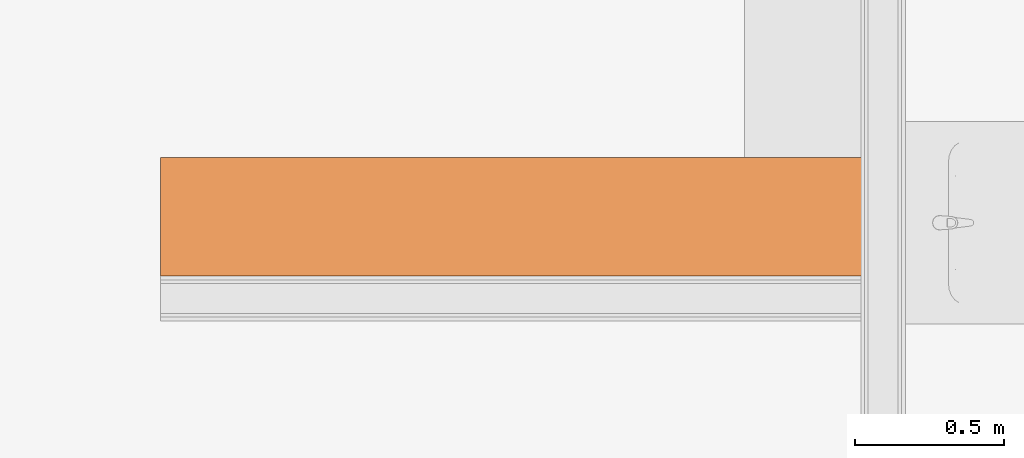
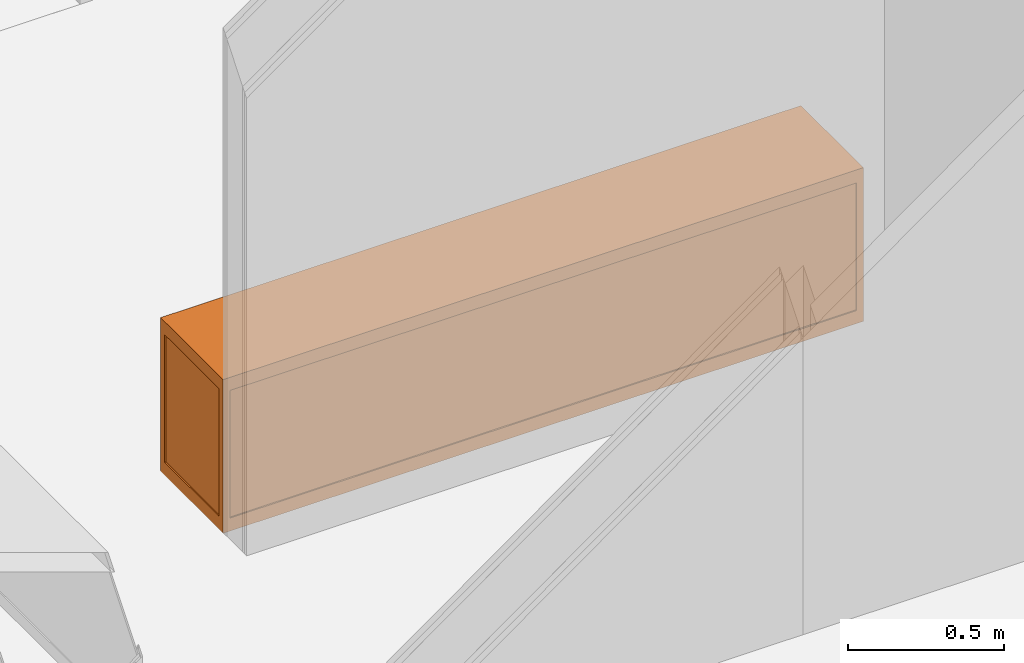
# One storey, part 108 of 109: 1 proxy.
"""IFC2X3 building model written with IfcOpenShell, lengths in millimetres."""

from ifc_helpers import new_model, entity, si_unit, converted_unit, derived_unit, money_unit, direction, frame, origin_with_axes, place, context, subcontext, project, spatial, faceted_brep, type_object, element, save


model = new_model("IFC2X3")

# Units and contexts
model_context = context("Model", 3, precision=0.01, world=origin_with_axes(), true_north=direction((0.0, 1.0)))
body_context = subcontext(model_context, "Body", "Model", "MODEL_VIEW")
ifc_project = project(units=[si_unit("LENGTHUNIT", "METRE", prefix="MILLI"), si_unit("AREAUNIT", "SQUARE_METRE"), si_unit("VOLUMEUNIT", "CUBIC_METRE"), converted_unit("PLANEANGLEUNIT", "DEGREE", entity("IfcPlaneAngleMeasure", 0.0174532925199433), si_unit("PLANEANGLEUNIT", "RADIAN"), dimensions=[0, 0, 0, 0, 0, 0, 0]), money_unit("EUR"), converted_unit("TIMEUNIT", "Year", entity("IfcTimeMeasure", 31557600.0), si_unit("TIMEUNIT", "SECOND"), dimensions=[0, 0, 1, 0, 0, 0, 0]), si_unit("MASSUNIT", "GRAM", prefix="KILO"), si_unit("THERMODYNAMICTEMPERATUREUNIT", "DEGREE_CELSIUS"), si_unit("LUMINOUSINTENSITYUNIT", "LUMEN"), si_unit("ENERGYUNIT", "JOULE", prefix="MEGA"), derived_unit("THERMALCONDUCTANCEUNIT", [(si_unit("POWERUNIT", "WATT"), 1), (si_unit("LENGTHUNIT", "METRE"), -1), (si_unit("THERMODYNAMICTEMPERATUREUNIT", "KELVIN"), -1)]), derived_unit("SPECIFICHEATCAPACITYUNIT", [(si_unit("ENERGYUNIT", "JOULE"), 1), (si_unit("MASSUNIT", "GRAM", prefix="KILO"), -1), (si_unit("THERMODYNAMICTEMPERATUREUNIT", "KELVIN"), -1)]), derived_unit("MASSDENSITYUNIT", [(si_unit("MASSUNIT", "GRAM", prefix="KILO"), 1), (si_unit("VOLUMEUNIT", "CUBIC_METRE"), -1)])], contexts=[model_context])

# Site, building, storey
site_placement = place(None, origin_with_axes())
site = spatial("IfcSite", under=ifc_project, at=site_placement, Name="<site naam>", CompositionType="ELEMENT")
building_placement = place(site_placement, origin_with_axes())
building = spatial("IfcBuilding", under=site, at=building_placement, Name="<Naam gebouw>", CompositionType="ELEMENT")
storey_placement = place(building_placement, origin_with_axes())
storey = spatial("IfcBuildingStorey", under=building, at=storey_placement, Name="00 Begane grond", CompositionType="ELEMENT", Elevation=0.0)

# Proxy
building_element_proxy_type = type_object("IfcBuildingElementProxyType", Name="Boekenkast 04 27 KM", PredefinedType="USERDEFINED")
proxy_placement = place(storey_placement, frame((53334.99999874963, 13544.99999810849, 0.0), z_axis=(0.0, 0.0, 1.0), x_axis=(-1.0, 0.0, 0.0)))
element("IfcBuildingElementProxy", 1, at=proxy_placement, inside=storey, type_object=building_element_proxy_type, Name="72_Brandslanghaspelkast_Lege", ObjectType="Massing", context=body_context, shape_type="Brep", body=[
    faceted_brep([(0.0, 0.0, 0.0), (0.0, 0.0, 600.0), (-25.4, 0.0, 600.0), (-25.4, 0.0, 0.0), (0.0, 25.4, 0.0), (0.0, 25.4, 600.0), (-5.0, 25.4, 600.0), (-5.0, 5.0, 600.0), (-25.4, 5.0, 600.0), (-25.4, 5.0, 0.0), (-5.0, 5.0, 0.0), (-5.0, 25.4, 0.0)], [[[0, 1, 2, 3]], [[4, 5, 1, 0]], [[1, 5, 6, 7, 8, 2]], [[3, 2, 8, 9]], [[0, 3, 9, 10, 11, 4]], [[11, 6, 5, 4]], [[10, 7, 6, 11]], [[9, 8, 7, 10]]]),
    faceted_brep([(-2364.999907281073, 25.4, 0.0), (-2364.999907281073, 25.4, 600.0), (-2359.999907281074, 25.4, 600.0), (-2359.999907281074, 25.4, 0.0), (-2364.999907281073, 0.0, 0.0), (-2364.999907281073, 0.0, 600.0), (-2339.599907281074, 0.0, 600.0), (-2339.599907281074, 5.0, 600.0), (-2359.999907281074, 5.0, 600.0), (-2359.999907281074, 5.0, 0.0), (-2339.599907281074, 5.0, 0.0), (-2339.599907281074, 0.0, 0.0)], [[[0, 1, 2, 3]], [[4, 5, 1, 0]], [[1, 5, 6, 7, 8, 2]], [[3, 2, 8, 9]], [[0, 3, 9, 10, 11, 4]], [[11, 6, 5, 4]], [[10, 7, 6, 11]], [[9, 8, 7, 10]]]),
    faceted_brep([(0.0, 374.5999821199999, 0.0), (0.0, 374.5999821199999, 600.0), (-5.0, 374.5999821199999, 600.0), (-5.0, 374.5999821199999, 0.0), (0.0, 399.9999821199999, 0.0), (0.0, 399.9999821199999, 600.0), (-25.4, 399.9999821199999, 600.0), (-25.4, 394.9999821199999, 600.0), (-5.0, 394.9999821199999, 600.0), (-5.0, 394.9999821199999, 0.0), (-25.4, 394.9999821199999, 0.0), (-25.4, 399.9999821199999, 0.0)], [[[0, 1, 2, 3]], [[4, 5, 1, 0]], [[1, 5, 6, 7, 8, 2]], [[3, 2, 8, 9]], [[0, 3, 9, 10, 11, 4]], [[11, 6, 5, 4]], [[10, 7, 6, 11]], [[9, 8, 7, 10]]]),
    faceted_brep([(-2364.999907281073, 399.9999821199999, 0.0), (-2364.999907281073, 399.9999821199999, 600.0), (-2339.599907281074, 399.9999821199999, 600.0), (-2339.599907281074, 399.9999821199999, 0.0), (-2364.999907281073, 374.5999821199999, 0.0), (-2364.999907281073, 374.5999821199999, 600.0), (-2359.999907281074, 374.5999821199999, 600.0), (-2359.999907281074, 394.9999821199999, 600.0), (-2339.599907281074, 394.9999821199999, 600.0), (-2339.599907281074, 394.9999821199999, 0.0), (-2359.999907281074, 394.9999821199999, 0.0), (-2359.999907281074, 374.5999821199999, 0.0)], [[[0, 1, 2, 3]], [[4, 5, 1, 0]], [[1, 5, 6, 7, 8, 2]], [[3, 2, 8, 9]], [[0, 3, 9, 10, 11, 4]], [[11, 6, 5, 4]], [[10, 7, 6, 11]], [[9, 8, 7, 10]]]),
    faceted_brep([(-5.0, 394.9999821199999, 0.0), (-5.0, 389.9999821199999, 0.0), (-2359.999907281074, 389.9999821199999, 0.0), (-2359.999907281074, 394.9999821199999, 0.0), (-5.0, 394.99998212, 549.2), (-5.0, 389.99998212, 549.2), (-2359.999907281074, 389.99998212, 549.2), (-2359.999907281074, 394.99998212, 549.2)], [[[0, 1, 2, 3]], [[4, 5, 1, 0]], [[1, 5, 6, 2]], [[3, 2, 6, 7]], [[0, 3, 7, 4]], [[7, 6, 5, 4]]]),
    faceted_brep([(-10.0, 389.9999821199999, 0.0), (-5.0, 389.9999821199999, 0.0), (-5.000000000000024, 5.000000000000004, 0.0), (-10.00000000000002, 5.000000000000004, 0.0), (-10.0, 389.99998212, 549.2), (-5.0, 389.99998212, 549.2), (-5.000000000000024, 5.00000000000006, 549.2), (-10.00000000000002, 5.00000000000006, 549.2)], [[[0, 1, 2, 3]], [[4, 5, 1, 0]], [[1, 5, 6, 2]], [[3, 2, 6, 7]], [[0, 3, 7, 4]], [[7, 6, 5, 4]]]),
    faceted_brep([(-2359.999907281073, 389.9999821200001, 0.0), (-2354.999907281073, 389.9999821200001, 0.0), (-2354.999907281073, 5.000000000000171, 0.0), (-2359.999907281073, 5.000000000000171, 0.0), (-2359.999907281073, 389.9999821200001, 549.2), (-2354.999907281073, 389.9999821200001, 549.2), (-2354.999907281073, 5.000000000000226, 549.2), (-2359.999907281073, 5.000000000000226, 549.2)], [[[0, 1, 2, 3]], [[4, 5, 1, 0]], [[1, 5, 6, 2]], [[3, 2, 6, 7]], [[0, 3, 7, 4]], [[7, 6, 5, 4]]]),
    faceted_brep([(-10.0, 10.0, 50.8), (-10.0, 10.0, 549.1999999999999), (-1182.499953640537, 10.0, 549.1999999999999), (-1182.499953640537, 10.0, 50.8), (-10.0, 15.0, 50.8), (-10.0, 15.0, 549.1999999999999), (-1182.499953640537, 15.0, 549.1999999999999), (-1182.499953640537, 15.0, 50.8)], [[[0, 1, 2, 3]], [[4, 5, 1, 0]], [[1, 5, 6, 2]], [[3, 2, 6, 7]], [[0, 3, 7, 4]], [[7, 6, 5, 4]]]),
    faceted_brep([(-1182.499953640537, 5.0, 50.8), (-1182.499953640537, 5.0, 549.1999999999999), (-2354.999907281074, 5.0, 549.1999999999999), (-2354.999907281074, 5.0, 50.8), (-1182.499953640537, 10.0, 50.8), (-1182.499953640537, 10.0, 549.1999999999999), (-2354.999907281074, 10.0, 549.1999999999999), (-2354.999907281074, 10.0, 50.8)], [[[0, 1, 2, 3]], [[4, 5, 1, 0]], [[1, 5, 6, 2]], [[3, 2, 6, 7]], [[0, 3, 7, 4]], [[7, 6, 5, 4]]]),
    faceted_brep([(-80.17211629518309, 10.00000000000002, 297.395277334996), (-80.4, 10.00000000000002, 300.0), (-80.17211629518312, 10.00000000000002, 302.6047226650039), (-79.49538931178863, 10.00000000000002, 305.130302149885), (-78.39038105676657, 10.00000000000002, 307.5), (-76.89066664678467, 10.00000000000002, 309.641814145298), (-75.04181414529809, 10.00000000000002, 311.4906666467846), (-72.89999999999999, 10.00000000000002, 312.9903810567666), (-70.53030214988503, 10.00000000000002, 314.0953893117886), (-68.00472266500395, 10.00000000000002, 314.7721162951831), (-65.4, 10.00000000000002, 315.0), (-62.79527733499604, 10.00000000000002, 314.7721162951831), (-60.26969785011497, 10.00000000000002, 314.0953893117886), (-57.90000000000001, 10.00000000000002, 312.9903810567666), (-55.75818585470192, 10.00000000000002, 311.4906666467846), (-53.90933335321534, 10.00000000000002, 309.641814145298), (-52.40961894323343, 10.00000000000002, 307.5), (-51.30461068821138, 10.00000000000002, 305.130302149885), (-50.62788370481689, 10.00000000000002, 302.6047226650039), (-50.40000000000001, 10.00000000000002, 300.0), (-50.62788370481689, 10.00000000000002, 297.395277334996), (-51.30461068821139, 10.00000000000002, 294.869697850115), (-52.40961894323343, 10.00000000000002, 292.5), (-53.90933335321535, 10.00000000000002, 290.3581858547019), (-55.75818585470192, 10.00000000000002, 288.5093333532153), (-57.90000000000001, 10.00000000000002, 287.0096189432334), (-60.26969785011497, 10.00000000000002, 285.9046106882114), (-62.79527733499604, 10.00000000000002, 285.2278837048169), (-65.4, 10.00000000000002, 285.0000000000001), (-68.00472266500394, 10.00000000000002, 285.2278837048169), (-70.53030214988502, 10.00000000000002, 285.9046106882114), (-72.89999999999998, 10.00000000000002, 287.0096189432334), (-75.04181414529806, 10.00000000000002, 288.5093333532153), (-76.89066664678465, 10.00000000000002, 290.3581858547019), (-78.39038105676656, 10.00000000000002, 292.5), (-79.4953893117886, 10.00000000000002, 294.869697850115), (-80.17211629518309, 8.00000000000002, 297.395277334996), (-80.4, 8.00000000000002, 300.0), (-80.17211629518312, 8.00000000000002, 302.6047226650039), (-79.49538931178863, 8.00000000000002, 305.130302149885), (-78.39038105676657, 8.00000000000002, 307.5), (-76.89066664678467, 8.00000000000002, 309.641814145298), (-75.04181414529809, 8.000000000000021, 311.4906666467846), (-72.89999999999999, 8.000000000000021, 312.9903810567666), (-70.53030214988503, 8.000000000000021, 314.0953893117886), (-68.00472266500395, 8.000000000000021, 314.7721162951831), (-65.4, 8.000000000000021, 315.0), (-62.79527733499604, 8.000000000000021, 314.7721162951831), (-60.26969785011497, 8.000000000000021, 314.0953893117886), (-57.90000000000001, 8.000000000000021, 312.9903810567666), (-55.75818585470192, 8.000000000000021, 311.4906666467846), (-53.90933335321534, 8.00000000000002, 309.641814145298), (-52.40961894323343, 8.00000000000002, 307.5), (-51.30461068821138, 8.00000000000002, 305.130302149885), (-50.62788370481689, 8.00000000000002, 302.6047226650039), (-50.40000000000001, 8.00000000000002, 300.0), (-50.62788370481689, 8.00000000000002, 297.395277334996), (-51.30461068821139, 8.00000000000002, 294.869697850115), (-52.40961894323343, 8.00000000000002, 292.5), (-53.90933335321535, 8.00000000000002, 290.3581858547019), (-55.75818585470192, 8.000000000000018, 288.5093333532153), (-57.90000000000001, 8.000000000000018, 287.0096189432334), (-60.26969785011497, 8.000000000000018, 285.9046106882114), (-62.79527733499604, 8.000000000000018, 285.2278837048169), (-65.4, 8.000000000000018, 285.0000000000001), (-68.00472266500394, 8.000000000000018, 285.2278837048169), (-70.53030214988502, 8.000000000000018, 285.9046106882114), (-72.89999999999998, 8.000000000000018, 287.0096189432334), (-75.04181414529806, 8.000000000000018, 288.5093333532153), (-76.89066664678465, 8.00000000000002, 290.3581858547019), (-78.39038105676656, 8.00000000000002, 292.5), (-79.4953893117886, 8.00000000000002, 294.869697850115)], [[[0, 1, 2, 3, 4, 5, 6, 7, 8, 9, 10, 11, 12, 13, 14, 15, 16, 17, 18, 19, 20, 21, 22, 23, 24, 25, 26, 27, 28, 29, 30, 31, 32, 33, 34, 35]], [[0, 36, 37, 1]], [[1, 37, 38, 2]], [[2, 38, 39, 3]], [[3, 39, 40, 4]], [[4, 40, 41, 5]], [[5, 41, 42, 6]], [[6, 42, 43, 7]], [[7, 43, 44, 8]], [[8, 44, 45, 9]], [[9, 45, 46, 10]], [[10, 46, 47, 11]], [[11, 47, 48, 12]], [[12, 48, 49, 13]], [[13, 49, 50, 14]], [[14, 50, 51, 15]], [[15, 51, 52, 16]], [[16, 52, 53, 17]], [[17, 53, 54, 18]], [[18, 54, 55, 19]], [[19, 55, 56, 20]], [[20, 56, 57, 21]], [[21, 57, 58, 22]], [[22, 58, 59, 23]], [[23, 59, 60, 24]], [[24, 60, 61, 25]], [[25, 61, 62, 26]], [[26, 62, 63, 27]], [[27, 63, 64, 28]], [[28, 64, 65, 29]], [[29, 65, 66, 30]], [[30, 66, 67, 31]], [[31, 67, 68, 32]], [[32, 68, 69, 33]], [[33, 69, 70, 34]], [[34, 70, 71, 35]], [[35, 71, 36, 0]], [[36, 71, 70, 69, 68, 67, 66, 65, 64, 63, 62, 61, 60, 59, 58, 57, 56, 55, 54, 53, 52, 51, 50, 49, 48, 47, 46, 45, 44, 43, 42, 41, 40, 39, 38, 37]]]),
    faceted_brep([(-2314.372023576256, 5.00000000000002, 297.395277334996), (-2314.599907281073, 5.00000000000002, 300.0), (-2314.372023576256, 5.00000000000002, 302.6047226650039), (-2313.695296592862, 5.00000000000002, 305.130302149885), (-2312.590288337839, 5.00000000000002, 307.5), (-2311.090573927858, 5.00000000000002, 309.641814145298), (-2309.241721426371, 5.00000000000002, 311.4906666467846), (-2307.099907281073, 5.00000000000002, 312.9903810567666), (-2304.730209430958, 5.00000000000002, 314.0953893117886), (-2302.204629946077, 5.00000000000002, 314.7721162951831), (-2299.599907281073, 5.00000000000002, 315.0), (-2296.995184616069, 5.00000000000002, 314.7721162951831), (-2294.469605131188, 5.00000000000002, 314.0953893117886), (-2292.099907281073, 5.00000000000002, 312.9903810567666), (-2289.958093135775, 5.00000000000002, 311.4906666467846), (-2288.109240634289, 5.00000000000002, 309.641814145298), (-2286.609526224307, 5.00000000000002, 307.5), (-2285.504517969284, 5.00000000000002, 305.130302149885), (-2284.82779098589, 5.00000000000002, 302.6047226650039), (-2284.599907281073, 5.00000000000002, 300.0), (-2284.82779098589, 5.00000000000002, 297.395277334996), (-2285.504517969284, 5.00000000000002, 294.869697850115), (-2286.609526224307, 5.000000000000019, 292.5), (-2288.109240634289, 5.000000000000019, 290.3581858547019), (-2289.958093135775, 5.000000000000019, 288.5093333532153), (-2292.099907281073, 5.000000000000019, 287.0096189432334), (-2294.469605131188, 5.000000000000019, 285.9046106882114), (-2296.995184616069, 5.000000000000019, 285.2278837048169), (-2299.599907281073, 5.000000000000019, 285.0000000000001), (-2302.204629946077, 5.000000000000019, 285.2278837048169), (-2304.730209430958, 5.000000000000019, 285.9046106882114), (-2307.099907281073, 5.000000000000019, 287.0096189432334), (-2309.241721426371, 5.000000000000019, 288.5093333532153), (-2311.090573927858, 5.000000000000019, 290.3581858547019), (-2312.590288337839, 5.000000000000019, 292.5), (-2313.695296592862, 5.00000000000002, 294.869697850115), (-2314.372023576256, 3.000000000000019, 297.395277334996), (-2314.599907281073, 3.000000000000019, 300.0), (-2314.372023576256, 3.000000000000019, 302.6047226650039), (-2313.695296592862, 3.00000000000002, 305.130302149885), (-2312.590288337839, 3.00000000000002, 307.5), (-2311.090573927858, 3.00000000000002, 309.641814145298), (-2309.241721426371, 3.00000000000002, 311.4906666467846), (-2307.099907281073, 3.00000000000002, 312.9903810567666), (-2304.730209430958, 3.00000000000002, 314.0953893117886), (-2302.204629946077, 3.00000000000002, 314.7721162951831), (-2299.599907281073, 3.00000000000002, 315.0), (-2296.995184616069, 3.00000000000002, 314.7721162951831), (-2294.469605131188, 3.00000000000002, 314.0953893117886), (-2292.099907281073, 3.00000000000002, 312.9903810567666), (-2289.958093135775, 3.00000000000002, 311.4906666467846), (-2288.109240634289, 3.00000000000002, 309.641814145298), (-2286.609526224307, 3.00000000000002, 307.5), (-2285.504517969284, 3.00000000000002, 305.130302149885), (-2284.82779098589, 3.000000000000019, 302.6047226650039), (-2284.599907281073, 3.000000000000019, 300.0), (-2284.82779098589, 3.000000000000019, 297.395277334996), (-2285.504517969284, 3.000000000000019, 294.869697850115), (-2286.609526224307, 3.000000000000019, 292.5), (-2288.109240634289, 3.000000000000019, 290.3581858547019), (-2289.958093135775, 3.000000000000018, 288.5093333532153), (-2292.099907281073, 3.000000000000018, 287.0096189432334), (-2294.469605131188, 3.000000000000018, 285.9046106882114), (-2296.995184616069, 3.000000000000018, 285.2278837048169), (-2299.599907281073, 3.000000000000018, 285.0000000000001), (-2302.204629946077, 3.000000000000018, 285.2278837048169), (-2304.730209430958, 3.000000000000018, 285.9046106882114), (-2307.099907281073, 3.000000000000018, 287.0096189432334), (-2309.241721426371, 3.000000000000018, 288.5093333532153), (-2311.090573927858, 3.000000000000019, 290.3581858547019), (-2312.590288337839, 3.000000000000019, 292.5), (-2313.695296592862, 3.000000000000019, 294.869697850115)], [[[0, 1, 2, 3, 4, 5, 6, 7, 8, 9, 10, 11, 12, 13, 14, 15, 16, 17, 18, 19, 20, 21, 22, 23, 24, 25, 26, 27, 28, 29, 30, 31, 32, 33, 34, 35]], [[0, 36, 37, 1]], [[1, 37, 38, 2]], [[2, 38, 39, 3]], [[3, 39, 40, 4]], [[4, 40, 41, 5]], [[5, 41, 42, 6]], [[6, 42, 43, 7]], [[7, 43, 44, 8]], [[8, 44, 45, 9]], [[9, 45, 46, 10]], [[10, 46, 47, 11]], [[11, 47, 48, 12]], [[12, 48, 49, 13]], [[13, 49, 50, 14]], [[14, 50, 51, 15]], [[15, 51, 52, 16]], [[16, 52, 53, 17]], [[17, 53, 54, 18]], [[18, 54, 55, 19]], [[19, 55, 56, 20]], [[20, 56, 57, 21]], [[21, 57, 58, 22]], [[22, 58, 59, 23]], [[23, 59, 60, 24]], [[24, 60, 61, 25]], [[25, 61, 62, 26]], [[26, 62, 63, 27]], [[27, 63, 64, 28]], [[28, 64, 65, 29]], [[29, 65, 66, 30]], [[30, 66, 67, 31]], [[31, 67, 68, 32]], [[32, 68, 69, 33]], [[33, 69, 70, 34]], [[34, 70, 71, 35]], [[35, 71, 36, 0]], [[36, 71, 70, 69, 68, 67, 66, 65, 64, 63, 62, 61, 60, 59, 58, 57, 56, 55, 54, 53, 52, 51, 50, 49, 48, 47, 46, 45, 44, 43, 42, 41, 40, 39, 38, 37]]]),
    faceted_brep([(-25.4, 399.9999821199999, 0.0), (-25.4, 399.9999821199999, 50.8), (-25.4, 394.9999821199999, 50.8), (-25.4, 394.9999821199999, 0.0), (-2339.599907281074, 399.9999821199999, 0.0), (-2339.599907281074, 399.9999821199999, 50.8), (-2339.599907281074, 394.9999821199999, 50.8), (-2339.599907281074, 394.9999821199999, 0.0)], [[[0, 1, 2, 3]], [[4, 5, 1, 0]], [[1, 5, 6, 2]], [[3, 2, 6, 7]], [[0, 3, 7, 4]], [[7, 6, 5, 4]]]),
    faceted_brep([(0.0, 25.4, 0.0), (0.0, 25.4, 50.8), (-5.0, 25.4, 50.8), (-5.0, 25.4, 0.0), (0.0, 374.5999821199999, 0.0), (0.0, 374.5999821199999, 50.8), (-5.0, 374.5999821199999, 50.8), (-5.0, 374.5999821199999, 0.0)], [[[0, 1, 2, 3]], [[4, 5, 1, 0]], [[1, 5, 6, 2]], [[3, 2, 6, 7]], [[0, 3, 7, 4]], [[7, 6, 5, 4]]]),
    faceted_brep([(-2364.999907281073, 374.5999821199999, 0.0), (-2364.999907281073, 374.5999821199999, 50.8), (-2359.999907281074, 374.5999821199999, 50.8), (-2359.999907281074, 374.5999821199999, 0.0), (-2364.999907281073, 25.4, 0.0), (-2364.999907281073, 25.4, 50.8), (-2359.999907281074, 25.4, 50.8), (-2359.999907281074, 25.4, 0.0)], [[[0, 1, 2, 3]], [[4, 5, 1, 0]], [[1, 5, 6, 2]], [[3, 2, 6, 7]], [[0, 3, 7, 4]], [[7, 6, 5, 4]]]),
    faceted_brep([(-2339.599907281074, 0.0, 0.0), (-2339.599907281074, 0.0, 50.8), (-2339.599907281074, 5.0, 50.8), (-2339.599907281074, 5.0, 0.0), (-25.4, 0.0, 0.0), (-25.4, 0.0, 50.8), (-25.4, 5.0, 50.8), (-10.0, 5.0, 50.8), (-10.0, 20.0, 50.8), (-2354.999907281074, 20.0, 50.8), (-2354.999907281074, 5.0, 50.8), (-2354.999907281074, 5.0, 0.0), (-2354.999907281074, 20.0, 0.0), (-10.0, 20.0, 0.0), (-10.0, 5.0, 0.0), (-25.4, 5.0, 0.0)], [[[0, 1, 2, 3]], [[4, 5, 1, 0]], [[1, 5, 6, 7, 8, 9, 10, 2]], [[3, 2, 10, 11]], [[0, 3, 11, 12, 13, 14, 15, 4]], [[15, 6, 5, 4]], [[14, 7, 6, 15]], [[13, 8, 7, 14]], [[12, 9, 8, 13]], [[11, 10, 9, 12]]]),
    faceted_brep([(-10.0, 10.0, 549.2), (-10.0, 10.0, 600.0), (-2354.999907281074, 10.0, 600.0), (-2354.999907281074, 10.0, 549.2), (-10.0, 389.9999821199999, 549.2), (-10.0, 389.9999821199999, 600.0), (-2354.999907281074, 389.9999821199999, 600.0), (-2354.999907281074, 389.9999821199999, 549.2)], [[[0, 1, 2, 3]], [[4, 5, 1, 0]], [[1, 5, 6, 2]], [[3, 2, 6, 7]], [[0, 3, 7, 4]], [[7, 6, 5, 4]]]),
    faceted_brep([(0.0, 25.4, 549.2), (0.0, 25.4, 600.0), (-5.0, 25.4, 600.0), (-5.0, 25.4, 549.2), (0.0, 374.5999821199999, 549.2), (0.0, 374.5999821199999, 600.0), (-5.0, 374.5999821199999, 600.0), (-5.0, 394.9999821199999, 600.0), (-10.0, 389.9999821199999, 600.0), (-10.0, 10.0, 600.0), (-5.0, 5.0, 600.0), (-5.0, 5.0, 549.2), (-10.0, 10.0, 549.2), (-10.0, 389.9999821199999, 549.2), (-5.0, 394.9999821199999, 549.2), (-5.0, 374.5999821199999, 549.2)], [[[0, 1, 2, 3]], [[4, 5, 1, 0]], [[1, 5, 6, 7, 8, 9, 10, 2]], [[3, 2, 10, 11]], [[0, 3, 11, 12, 13, 14, 15, 4]], [[15, 6, 5, 4]], [[14, 7, 6, 15]], [[13, 8, 7, 14]], [[12, 9, 8, 13]], [[11, 10, 9, 12]]]),
    faceted_brep([(-2364.999907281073, 374.5999821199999, 549.2), (-2364.999907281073, 374.5999821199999, 600.0), (-2359.999907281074, 374.5999821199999, 600.0), (-2359.999907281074, 374.5999821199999, 549.2), (-2364.999907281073, 25.4, 549.2), (-2364.999907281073, 25.4, 600.0), (-2359.999907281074, 25.4, 600.0), (-2359.999907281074, 5.0, 600.0), (-2354.999907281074, 10.0, 600.0), (-2354.999907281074, 389.9999821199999, 600.0), (-2359.999907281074, 394.9999821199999, 600.0), (-2359.999907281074, 394.9999821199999, 549.2), (-2354.999907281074, 389.9999821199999, 549.2), (-2354.999907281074, 10.0, 549.2), (-2359.999907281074, 5.0, 549.2), (-2359.999907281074, 25.4, 549.2)], [[[0, 1, 2, 3]], [[4, 5, 1, 0]], [[1, 5, 6, 7, 8, 9, 10, 2]], [[3, 2, 10, 11]], [[0, 3, 11, 12, 13, 14, 15, 4]], [[15, 6, 5, 4]], [[14, 7, 6, 15]], [[13, 8, 7, 14]], [[12, 9, 8, 13]], [[11, 10, 9, 12]]]),
    faceted_brep([(-2339.599907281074, 0.0, 549.2), (-2339.599907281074, 0.0, 600.0), (-2339.599907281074, 5.0, 600.0), (-2339.599907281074, 5.0, 549.2), (-25.4, 0.0, 549.2), (-25.4, 0.0, 600.0), (-25.4, 5.0, 600.0), (-5.0, 5.0, 600.0), (-10.0, 10.0, 600.0), (-2354.999907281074, 10.0, 600.0), (-2359.999907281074, 5.0, 600.0), (-2359.999907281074, 5.0, 549.2), (-2354.999907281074, 10.0, 549.2), (-10.0, 10.0, 549.2), (-5.0, 5.0, 549.2), (-25.4, 5.0, 549.2)], [[[0, 1, 2, 3]], [[4, 5, 1, 0]], [[1, 5, 6, 7, 8, 9, 10, 2]], [[3, 2, 10, 11]], [[0, 3, 11, 12, 13, 14, 15, 4]], [[15, 6, 5, 4]], [[14, 7, 6, 15]], [[13, 8, 7, 14]], [[12, 9, 8, 13]], [[11, 10, 9, 12]]]),
    faceted_brep([(-25.4, 399.9999821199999, 549.2), (-25.4, 399.9999821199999, 600.0), (-25.4, 394.9999821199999, 600.0), (-25.4, 394.9999821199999, 549.2), (-2339.599907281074, 399.9999821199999, 549.2), (-2339.599907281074, 399.9999821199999, 600.0), (-2339.599907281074, 394.9999821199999, 600.0), (-2359.999907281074, 394.9999821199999, 600.0), (-2354.999907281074, 389.9999821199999, 600.0), (-10.0, 389.9999821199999, 600.0), (-5.0, 394.9999821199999, 600.0), (-5.0, 394.9999821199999, 549.2), (-10.0, 389.9999821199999, 549.2), (-2354.999907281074, 389.9999821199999, 549.2), (-2359.999907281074, 394.9999821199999, 549.2), (-2339.599907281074, 394.9999821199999, 549.2)], [[[0, 1, 2, 3]], [[4, 5, 1, 0]], [[1, 5, 6, 7, 8, 9, 10, 2]], [[3, 2, 10, 11]], [[0, 3, 11, 12, 13, 14, 15, 4]], [[15, 6, 5, 4]], [[14, 7, 6, 15]], [[13, 8, 7, 14]], [[12, 9, 8, 13]], [[11, 10, 9, 12]]]),
])

save(model, "model.ifc")
